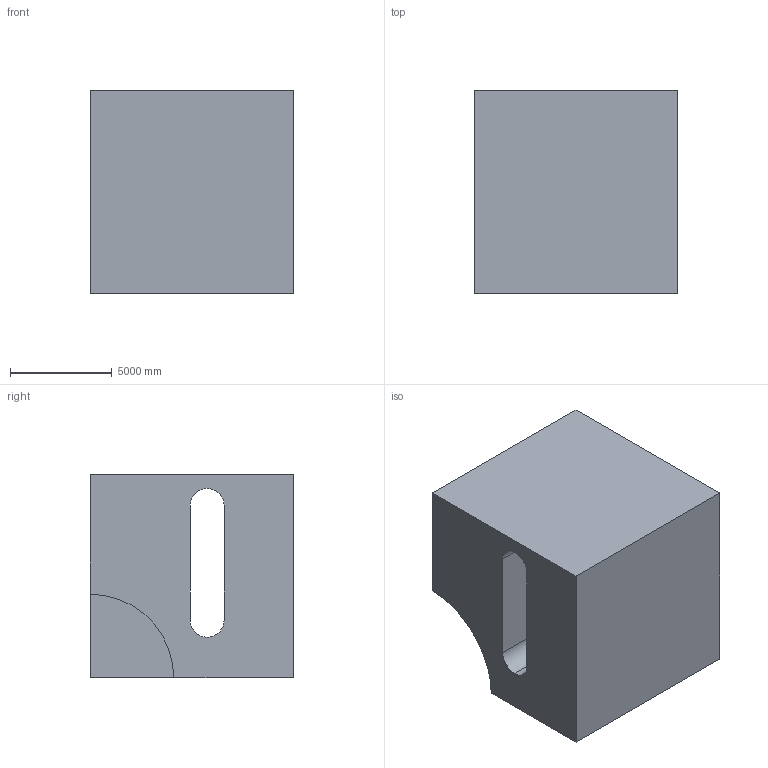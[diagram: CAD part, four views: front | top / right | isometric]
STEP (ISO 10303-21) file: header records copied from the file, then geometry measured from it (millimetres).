
FILE_DESCRIPTION (( 'STEP AP203' ), '1' );
FILE_NAME ('34.STEP', '2022-07-28T13:27:23', ( 'user' ), ( '' ), 'SwSTEP 2.0', 'SolidWorks 2021', '' );
FILE_SCHEMA (( 'CONFIG_CONTROL_DESIGN' ));
Length unit declared in the file: centimetre
Products named in the file (1): 34
Bounding box: 10000 x 10000 x 10000 mm (x, y, z)
Volume: 795798266872.5 mm3; surface area: 730422562 mm2
Topology: 1 solids, 1 shells, 13 faces, 33 edges, 22 vertices
Faces by surface type: plane 9, cylinder 4
Entity records: 476 total; most frequent: DIRECTION 69, CARTESIAN_POINT 69, ORIENTED_EDGE 66, EDGE_CURVE 33, VECTOR 25, LINE 25, AXIS2_PLACEMENT_3D 22, VERTEX_POINT 22
